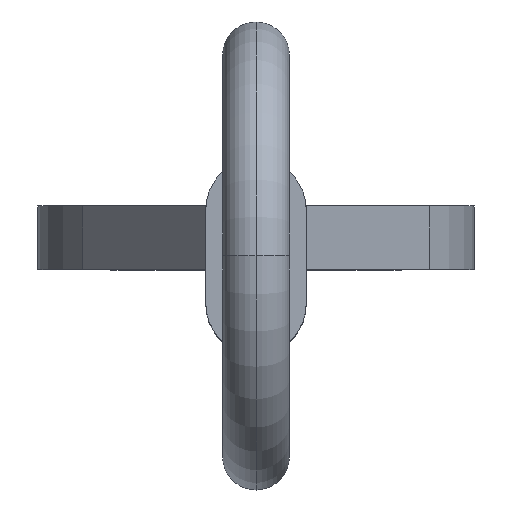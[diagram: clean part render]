
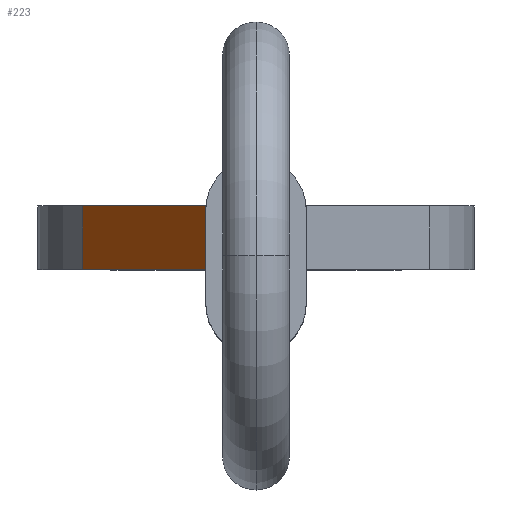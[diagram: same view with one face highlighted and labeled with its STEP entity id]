
A CAD part, top view. The second image highlights one B-rep face of the part: STEP entity #223.
In plain terms, the highlighted planar face has unit normal (-0.794, 0, 0.608).
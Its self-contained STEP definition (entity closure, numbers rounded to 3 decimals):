
#26 = VECTOR ( 'NONE', #869, 1000. ) ;
#54 = CARTESIAN_POINT ( 'NONE',  ( -4.132, 0.325, -13.835 ) ) ;
#66 = CARTESIAN_POINT ( 'NONE',  ( -1.195, -1.195, -10. ) ) ;
#74 = ORIENTED_EDGE ( 'NONE', *, *, #378, .F. ) ;
#101 = LINE ( 'NONE', #416, #26 ) ;
#112 = ORIENTED_EDGE ( 'NONE', *, *, #713, .T. ) ;
#146 = DIRECTION ( 'NONE',  ( 0., 1., 0. ) ) ;
#152 = DIRECTION ( 'NONE',  ( -0.608, 0., -0.794 ) ) ;
#165 = EDGE_CURVE ( 'NONE', #888, #504, #240, .T. ) ;
#174 = ORIENTED_EDGE ( 'NONE', *, *, #165, .T. ) ;
#208 = CARTESIAN_POINT ( 'NONE',  ( -1.195, -1.195, -10. ) ) ;
#223 = ADVANCED_FACE ( 'NONE', ( #460 ), #765, .T. ) ;
#225 = ORIENTED_EDGE ( 'NONE', *, *, #506, .F. ) ;
#231 = ORIENTED_EDGE ( 'NONE', *, *, #437, .T. ) ;
#240 = LINE ( 'NONE', #939, #559 ) ;
#271 = DIRECTION ( 'NONE',  ( 0., -1., 0. ) ) ;
#378 = EDGE_CURVE ( 'NONE', #424, #405, #101, .T. ) ;
#405 = VERTEX_POINT ( 'NONE', #964 ) ;
#416 = CARTESIAN_POINT ( 'NONE',  ( -4.132, -1.195, -13.835 ) ) ;
#424 = VERTEX_POINT ( 'NONE', #66 ) ;
#437 = EDGE_CURVE ( 'NONE', #424, #556, #653, .T. ) ;
#449 = CARTESIAN_POINT ( 'NONE',  ( -1.195, 0., -10. ) ) ;
#450 = CARTESIAN_POINT ( 'NONE',  ( -1.195, 0.325, -10. ) ) ;
#460 = FACE_OUTER_BOUND ( 'NONE', #642, .T. ) ;
#504 = VERTEX_POINT ( 'NONE', #54 ) ;
#506 = EDGE_CURVE ( 'NONE', #888, #556, #841, .T. ) ;
#511 = AXIS2_PLACEMENT_3D ( 'NONE', #1001, #839, #616 ) ;
#556 = VERTEX_POINT ( 'NONE', #449 ) ;
#559 = VECTOR ( 'NONE', #152, 1000. ) ;
#602 = VECTOR ( 'NONE', #907, 1000. ) ;
#616 = DIRECTION ( 'NONE',  ( 0.608, 0., 0.794 ) ) ;
#642 = EDGE_LOOP ( 'NONE', ( #74, #231, #225, #174, #112 ) ) ;
#653 = LINE ( 'NONE', #208, #914 ) ;
#659 = CARTESIAN_POINT ( 'NONE',  ( -4.132, 0.325, -13.835 ) ) ;
#698 = VECTOR ( 'NONE', #271, 1000. ) ;
#713 = EDGE_CURVE ( 'NONE', #504, #405, #879, .T. ) ;
#765 = PLANE ( 'NONE',  #511 ) ;
#839 = DIRECTION ( 'NONE',  ( -0.794, 0., 0.608 ) ) ;
#841 = LINE ( 'NONE', #989, #602 ) ;
#869 = DIRECTION ( 'NONE',  ( -0.608, 0., -0.794 ) ) ;
#879 = LINE ( 'NONE', #659, #698 ) ;
#888 = VERTEX_POINT ( 'NONE', #450 ) ;
#907 = DIRECTION ( 'NONE',  ( 0., -1., 0. ) ) ;
#914 = VECTOR ( 'NONE', #146, 1000. ) ;
#939 = CARTESIAN_POINT ( 'NONE',  ( -4.132, 0.325, -13.835 ) ) ;
#964 = CARTESIAN_POINT ( 'NONE',  ( -4.132, -1.195, -13.835 ) ) ;
#989 = CARTESIAN_POINT ( 'NONE',  ( -1.195, 0.325, -10. ) ) ;
#1001 = CARTESIAN_POINT ( 'NONE',  ( -4.132, 0.325, -13.835 ) ) ;
